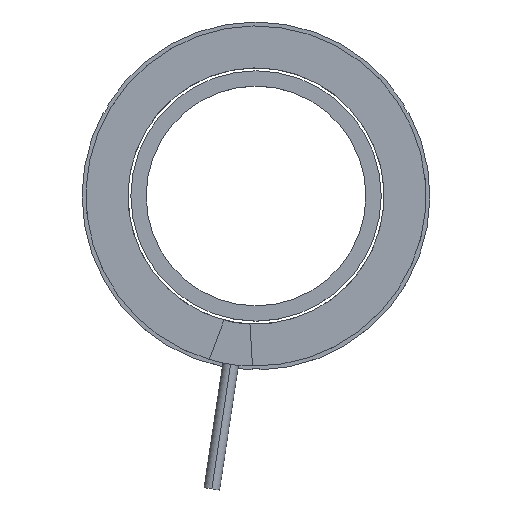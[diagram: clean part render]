
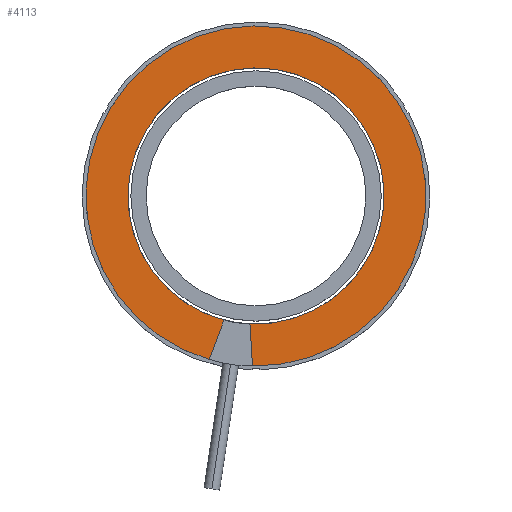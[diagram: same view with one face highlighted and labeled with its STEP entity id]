
A CAD part, top view. The second image highlights one B-rep face of the part: STEP entity #4113.
In plain terms, the highlighted planar face has unit normal (0, 0, 1).
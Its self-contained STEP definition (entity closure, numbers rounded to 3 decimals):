
#31 = LINE ( 'NONE', #2555, #211 ) ;
#44 = ORIENTED_EDGE ( 'NONE', *, *, #3498, .F. ) ;
#211 = VECTOR ( 'NONE', #1219, 1000. ) ;
#493 = VECTOR ( 'NONE', #2011, 1000. ) ;
#510 = DIRECTION ( 'NONE',  ( 0., 0., 1. ) ) ;
#659 = EDGE_CURVE ( 'NONE', #4063, #1951, #681, .T. ) ;
#670 = VERTEX_POINT ( 'NONE', #3517 ) ;
#681 = LINE ( 'NONE', #871, #493 ) ;
#714 = CARTESIAN_POINT ( 'NONE',  ( 29.771, 53.383, 179.225 ) ) ;
#725 = DIRECTION ( 'NONE',  ( -0.149, -0.989, 0. ) ) ;
#758 = VERTEX_POINT ( 'NONE', #1027 ) ;
#834 = CARTESIAN_POINT ( 'NONE',  ( 32.094, 102.278, 179.225 ) ) ;
#864 = DIRECTION ( 'NONE',  ( 0.989, -0.149, 0. ) ) ;
#871 = CARTESIAN_POINT ( 'NONE',  ( 29.771, 53.383, 179.225 ) ) ;
#1027 = CARTESIAN_POINT ( 'NONE',  ( 14.215, 39.785, 179.225 ) ) ;
#1073 = CARTESIAN_POINT ( 'NONE',  ( 30.731, 37.293, 179.225 ) ) ;
#1192 = EDGE_CURVE ( 'NONE', #3634, #670, #3589, .T. ) ;
#1219 = DIRECTION ( 'NONE',  ( -0.352, -0.936, 0. ) ) ;
#1237 = AXIS2_PLACEMENT_3D ( 'NONE', #2871, #510, #1838 ) ;
#1274 = CARTESIAN_POINT ( 'NONE',  ( 32.094, 102.278, 179.225 ) ) ;
#1409 = CARTESIAN_POINT ( 'NONE',  ( 39.4, 150.68, 179.225 ) ) ;
#1446 = CARTESIAN_POINT ( 'NONE',  ( 41.795, 166.55, 179.225 ) ) ;
#1459 = AXIS2_PLACEMENT_3D ( 'NONE', #1274, #3921, #2326 ) ;
#1495 = CARTESIAN_POINT ( 'NONE',  ( 32.094, 102.278, 179.225 ) ) ;
#1549 = EDGE_CURVE ( 'NONE', #2824, #758, #3536, .T. ) ;
#1551 = DIRECTION ( 'NONE',  ( -0.149, -0.989, 0. ) ) ;
#1661 = AXIS2_PLACEMENT_3D ( 'NONE', #834, #2667, #725 ) ;
#1826 = DIRECTION ( 'NONE',  ( 0., 0., 1. ) ) ;
#1838 = DIRECTION ( 'NONE',  ( -0.149, -0.989, 0. ) ) ;
#1872 = DIRECTION ( 'NONE',  ( 0., 0., 1. ) ) ;
#1951 = VERTEX_POINT ( 'NONE', #714 ) ;
#2011 = DIRECTION ( 'NONE',  ( -0.06, 0.998, 0. ) ) ;
#2235 = AXIS2_PLACEMENT_3D ( 'NONE', #1495, #1872, #864 ) ;
#2326 = DIRECTION ( 'NONE',  ( -0.149, -0.989, 0. ) ) ;
#2434 = CIRCLE ( 'NONE', #1459, 48.95 ) ;
#2553 = EDGE_CURVE ( 'NONE', #4063, #2824, #2748, .T. ) ;
#2555 = CARTESIAN_POINT ( 'NONE',  ( 19.883, 54.876, 179.225 ) ) ;
#2566 = CARTESIAN_POINT ( 'NONE',  ( 32.094, 102.278, 179.225 ) ) ;
#2667 = DIRECTION ( 'NONE',  ( 0., 0., 1. ) ) ;
#2718 = FACE_OUTER_BOUND ( 'NONE', #4265, .T. ) ;
#2748 = CIRCLE ( 'NONE', #4122, 65. ) ;
#2809 = ORIENTED_EDGE ( 'NONE', *, *, #1549, .T. ) ;
#2824 = VERTEX_POINT ( 'NONE', #1446 ) ;
#2840 = ORIENTED_EDGE ( 'NONE', *, *, #1192, .F. ) ;
#2871 = CARTESIAN_POINT ( 'NONE',  ( 32.094, 102.278, 179.225 ) ) ;
#2896 = PLANE ( 'NONE',  #2235 ) ;
#3041 = ORIENTED_EDGE ( 'NONE', *, *, #2553, .T. ) ;
#3074 = ORIENTED_EDGE ( 'NONE', *, *, #659, .F. ) ;
#3498 = EDGE_CURVE ( 'NONE', #670, #758, #31, .T. ) ;
#3517 = CARTESIAN_POINT ( 'NONE',  ( 19.883, 54.876, 179.225 ) ) ;
#3536 = CIRCLE ( 'NONE', #1661, 65. ) ;
#3589 = CIRCLE ( 'NONE', #1237, 48.95 ) ;
#3634 = VERTEX_POINT ( 'NONE', #1409 ) ;
#3834 = ORIENTED_EDGE ( 'NONE', *, *, #3953, .F. ) ;
#3921 = DIRECTION ( 'NONE',  ( 0., 0., 1. ) ) ;
#3953 = EDGE_CURVE ( 'NONE', #1951, #3634, #2434, .T. ) ;
#4063 = VERTEX_POINT ( 'NONE', #1073 ) ;
#4113 = ADVANCED_FACE ( 'NONE', ( #2718 ), #2896, .T. ) ;
#4122 = AXIS2_PLACEMENT_3D ( 'NONE', #2566, #1826, #1551 ) ;
#4265 = EDGE_LOOP ( 'NONE', ( #3074, #3041, #2809, #44, #2840, #3834 ) ) ;
